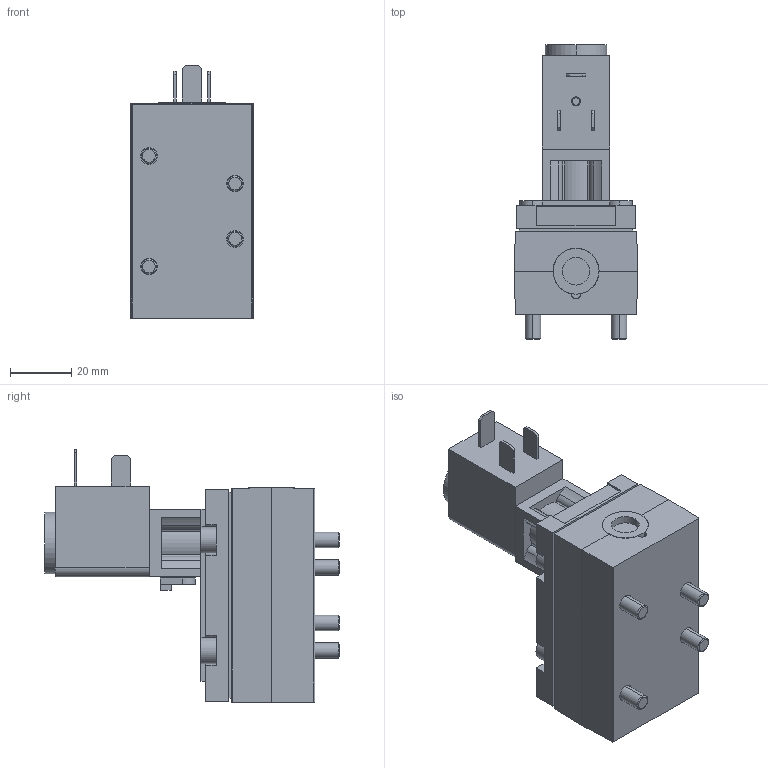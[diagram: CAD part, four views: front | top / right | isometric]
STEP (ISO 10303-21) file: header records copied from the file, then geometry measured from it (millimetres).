
FILE_DESCRIPTION((''),'2;1');
FILE_NAME('5811110300_ASM','2019-10-11T',('vol1hc'),(''),'CREO PARAMETRIC BY PTC INC, 2016260','CREO PARAMETRIC BY PTC INC, 2016260','');
FILE_SCHEMA(('CONFIG_CONTROL_DESIGN'));
Length unit declared in the file: millimetre
Products named in the file (4): 581-ISO1-BODY-PA; 581-ISO1-EV-COVER-22-SINGLE-T0; 581-PILOT-22_FORM_BI; 5811110300_ASM
Assembly tree (3 placements, depth 2):
  5811110300_ASM
    581-ISO1-BODY-PA
    581-ISO1-EV-COVER-22-SINGLE-T0
    581-PILOT-22_FORM_BI
Bounding box: 40 x 95.85 x 82.5 mm (x, y, z)
Volume: 115113.8 mm3; surface area: 35926.7 mm2
Topology: 3 solids, 5 shells, 347 faces, 864 edges, 568 vertices
Faces by surface type: plane 191, cylinder 118, cone 38
Entity records: 10629 total; most frequent: CARTESIAN_POINT 1942, DIRECTION 1848, ORIENTED_EDGE 1728, EDGE_CURVE 864, AXIS2_PLACEMENT_3D 644, VERTEX_POINT 568, VECTOR 560, LINE 560
